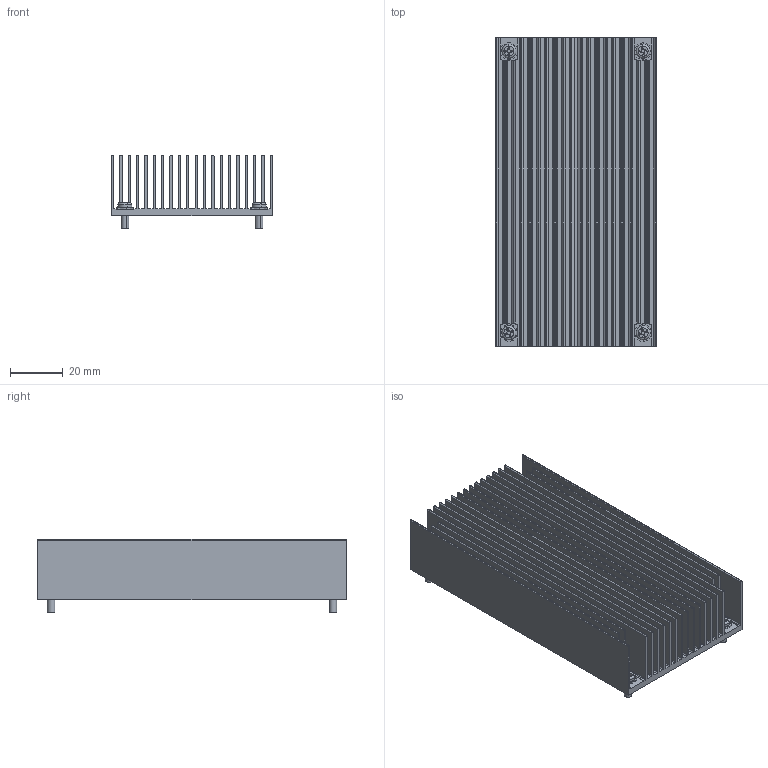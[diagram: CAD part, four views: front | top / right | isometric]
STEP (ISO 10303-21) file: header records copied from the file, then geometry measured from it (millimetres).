
FILE_DESCRIPTION (( 'STEP AP214' ), '1' );
FILE_NAME ('HS1594+K08.STEP', '2023-02-15T16:50:03', ( '' ), ( '' ), 'SwSTEP 2.0', 'SolidWorks 2020', '' );
FILE_SCHEMA (( 'AUTOMOTIVE_DESIGN' ));
Length unit declared in the file: inch
Products named in the file (1): HS1594+K08
Bounding box: 60.96 x 116.84 x 27.81 mm (x, y, z)
Volume: 59276.9 mm3; surface area: 107415.4 mm2
Topology: 5 solids, 5 shells, 572 faces, 1514 edges, 964 vertices
Faces by surface type: plane 410, cylinder 154, torus 8
Entity records: 25078 total; most frequent: CARTESIAN_POINT 3075, DIRECTION 3036, ORIENTED_EDGE 3028, EDGE_CURVE 1514, VECTOR 1122, LINE 1122, VERTEX_POINT 964, AXIS2_PLACEMENT_3D 957
